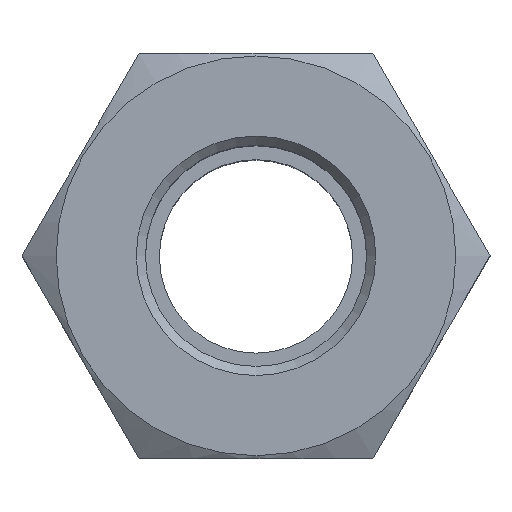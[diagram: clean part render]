
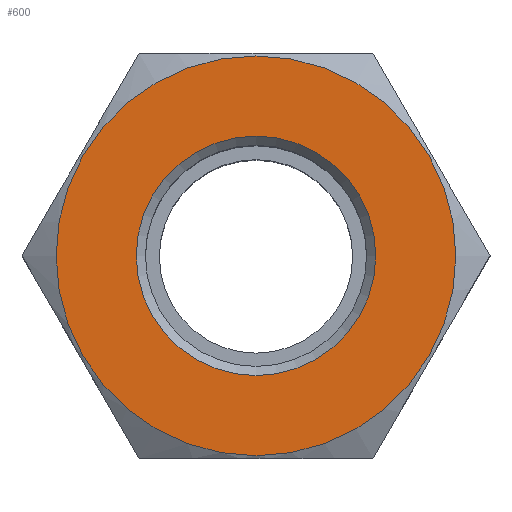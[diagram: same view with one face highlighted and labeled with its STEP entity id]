
A CAD part, top view. The second image highlights one B-rep face of the part: STEP entity #600.
In plain terms, the highlighted planar face has unit normal (0, 0, 1).
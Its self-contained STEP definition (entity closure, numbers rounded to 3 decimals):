
#600=ADVANCED_FACE('', (#610,#620), #630, .T.);
#3380=AXIS2_PLACEMENT_3D('Ax2Pl3d', #3390, #3400, #3410);
#3500=AXIS2_PLACEMENT_3D('Ax2Pl3d', #3510, #3520, #3530);
#3540=AXIS2_PLACEMENT_3D('Ax2Pl3d', #3550, #3560, #3570);
#3390=CARTESIAN_POINT('HicPkt', (28.698,21.517,51.787));
#9680=CARTESIAN_POINT('', (28.698,10.667,51.787));
#3510=CARTESIAN_POINT('HicPkt', (39.548,21.517,51.787));
#3550=CARTESIAN_POINT('HicPkt', (28.698,21.517,51.787))
;
#9700=CARTESIAN_POINT('', (28.698,28.017,51.787));
#10500=CIRCLE('Circle', #3380, 10.85);
#10520=CIRCLE('Circle', #3540, 6.5);
#3400=DIRECTION('Axis', (0.,0.,-1.));
#3410=DIRECTION('RefDirection', (-1.,-0.,0.));
#3520=DIRECTION('Axis', (0.,0.,1.));
#3530=DIRECTION('RefDirection', (1.,0.,-0.));
#3560=DIRECTION('Axis', (0.,0.,-1.));
#3570=DIRECTION('RefDirection', (-1.,-0.,0.));
#15100=EDGE_CURVE('', #15110, #15110, #10500, .T.);
#15140=EDGE_CURVE('', #15150, #15150, #10520, .T.);
#17300=EDGE_LOOP('Edge_loop', (#17310));
#17320=EDGE_LOOP('Edge_loop', (#17330));
#620=FACE_BOUND('', #17320, .T.);
#610=FACE_OUTER_BOUND('Face_outer_bound', #17300, .T.);
#17310=ORIENTED_EDGE('', *, *, #15100, .F.);
#17330=ORIENTED_EDGE('', *, *, #15140, .T.);
#630=PLANE('Plane', #3500);
#15110=VERTEX_POINT('', #9680);
#15150=VERTEX_POINT('', #9700);
